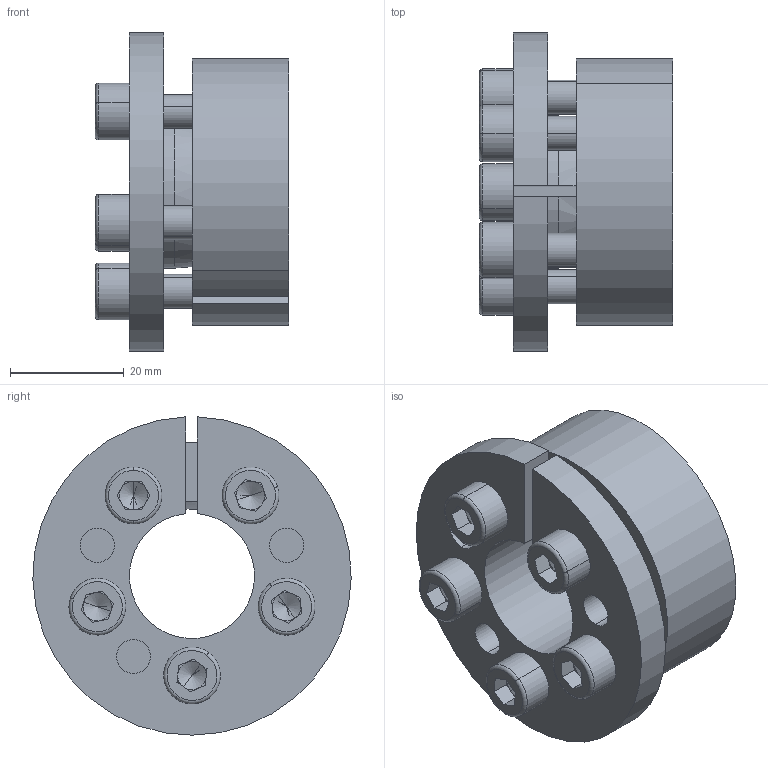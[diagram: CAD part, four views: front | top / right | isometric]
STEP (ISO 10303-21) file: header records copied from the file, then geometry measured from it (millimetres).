
FILE_DESCRIPTION (( 'STEP AP203' ), '1' );
FILE_NAME ('D3-22-47.STEP', '2017-10-12T06:01:30', ( 'MYCOM' ), ( '' ), 'SwSTEP 2.0', 'SolidWorks 2015', '' );
FILE_SCHEMA (( 'CONFIG_CONTROL_DESIGN' ));
Length unit declared in the file: millimetre
Products named in the file (1): D3-22-47
Bounding box: 34.01 x 55.99 x 55.99 mm (x, y, z)
Surface area: 20210.2 mm2 (no closed solid volume)
Topology: 0 solids, 12 shells, 153 faces, 380 edges, 231 vertices
Faces by surface type: plane 74, cylinder 55, cone 14, torus 10
Entity records: 4581 total; most frequent: DIRECTION 838, CARTESIAN_POINT 776, ORIENTED_EDGE 710, EDGE_CURVE 370, AXIS2_PLACEMENT_3D 318, VERTEX_POINT 231, VECTOR 202, LINE 202
